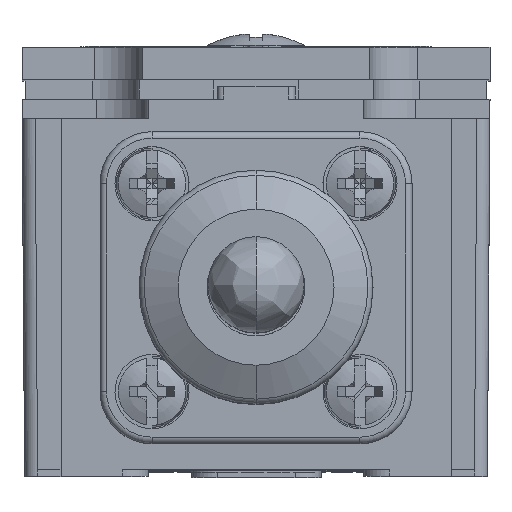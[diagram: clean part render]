
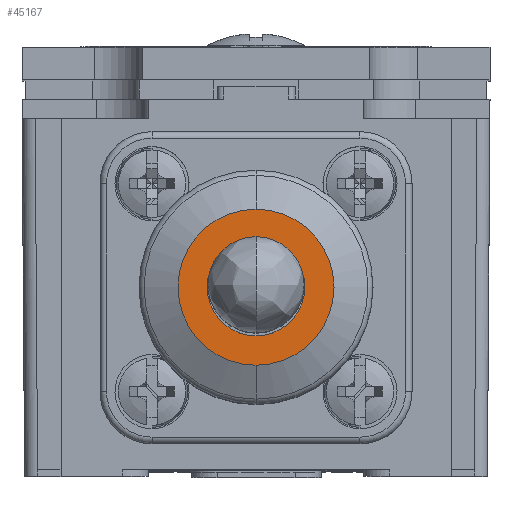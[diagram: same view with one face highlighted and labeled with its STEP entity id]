
A CAD part, top view. The second image highlights one B-rep face of the part: STEP entity #45167.
In plain terms, the highlighted planar face has unit normal (0, 0, 1).
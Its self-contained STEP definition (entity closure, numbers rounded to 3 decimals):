
#44654=CARTESIAN_POINT('',(0.,14.5,24.3));
#44655=DIRECTION('',(0.,0.,1.));
#44656=DIRECTION('',(0.,1.,0.));
#44657=AXIS2_PLACEMENT_3D('',#44654,#44655,#44656);
#44662=CARTESIAN_POINT('',(0.,14.5,24.3));
#44663=DIRECTION('',(0.,0.,1.));
#44664=DIRECTION('',(0.,-1.,0.));
#44665=AXIS2_PLACEMENT_3D('',#44662,#44663,#44664);
#44670=CARTESIAN_POINT('',(2.1,14.5,24.3));
#44671=CARTESIAN_POINT('',(2.1,14.557,24.3));
#44672=CARTESIAN_POINT('',(2.096,14.67,24.3));
#44673=CARTESIAN_POINT('',(2.074,14.842,24.3));
#44674=CARTESIAN_POINT('',(2.039,15.012,24.3));
#44675=CARTESIAN_POINT('',(1.99,15.179,24.3));
#44676=CARTESIAN_POINT('',(1.927,15.341,24.3));
#44677=CARTESIAN_POINT('',(1.85,15.498,24.3));
#44678=CARTESIAN_POINT('',(1.762,15.647,24.3));
#44679=CARTESIAN_POINT('',(1.661,15.789,24.3));
#44680=CARTESIAN_POINT('',(1.548,15.922,24.3));
#44681=CARTESIAN_POINT('',(1.426,16.045,24.3));
#44682=CARTESIAN_POINT('',(1.293,16.158,24.3));
#44683=CARTESIAN_POINT('',(1.151,16.259,24.3));
#44684=CARTESIAN_POINT('',(1.002,16.348,24.3));
#44685=CARTESIAN_POINT('',(0.846,16.425,24.3));
#44686=CARTESIAN_POINT('',(0.684,16.488,24.3));
#44687=CARTESIAN_POINT('',(0.517,16.538,24.3));
#44688=CARTESIAN_POINT('',(0.347,16.574,24.3));
#44689=CARTESIAN_POINT('',(0.174,16.595,24.3));
#44690=CARTESIAN_POINT('',(0.,16.602,24.3));
#44691=CARTESIAN_POINT('',(-0.174,16.595,24.3));
#44692=CARTESIAN_POINT('',(-0.346,16.574,24.3));
#44693=CARTESIAN_POINT('',(-0.517,16.538,24.3));
#44694=CARTESIAN_POINT('',(-0.683,16.488,24.3));
#44695=CARTESIAN_POINT('',(-0.845,16.425,24.3));
#44696=CARTESIAN_POINT('',(-1.002,16.348,24.3));
#44697=CARTESIAN_POINT('',(-1.151,16.259,24.3));
#44698=CARTESIAN_POINT('',(-1.293,16.158,24.3));
#44699=CARTESIAN_POINT('',(-1.425,16.046,24.3));
#44700=CARTESIAN_POINT('',(-1.548,15.922,24.3));
#44701=CARTESIAN_POINT('',(-1.66,15.79,24.3));
#44702=CARTESIAN_POINT('',(-1.761,15.648,24.3));
#44703=CARTESIAN_POINT('',(-1.85,15.498,24.3));
#44704=CARTESIAN_POINT('',(-1.927,15.342,24.3));
#44705=CARTESIAN_POINT('',(-1.99,15.179,24.3));
#44706=CARTESIAN_POINT('',(-2.039,15.012,24.3));
#44707=CARTESIAN_POINT('',(-2.074,14.842,24.3));
#44708=CARTESIAN_POINT('',(-2.096,14.671,24.3));
#44709=CARTESIAN_POINT('',(-2.1,14.557,24.3));
#44710=CARTESIAN_POINT('',(-2.1,14.5,24.3));
#44715=CARTESIAN_POINT('',(-2.1,14.5,24.3));
#44716=CARTESIAN_POINT('',(-2.1,14.443,24.3));
#44717=CARTESIAN_POINT('',(-2.096,14.33,24.3));
#44718=CARTESIAN_POINT('',(-2.074,14.158,24.3));
#44719=CARTESIAN_POINT('',(-2.039,13.988,24.3));
#44720=CARTESIAN_POINT('',(-1.99,13.821,24.3));
#44721=CARTESIAN_POINT('',(-1.927,13.659,24.3));
#44722=CARTESIAN_POINT('',(-1.85,13.502,24.3));
#44723=CARTESIAN_POINT('',(-1.762,13.353,24.3));
#44724=CARTESIAN_POINT('',(-1.661,13.211,24.3));
#44725=CARTESIAN_POINT('',(-1.548,13.078,24.3));
#44726=CARTESIAN_POINT('',(-1.426,12.955,24.3));
#44727=CARTESIAN_POINT('',(-1.293,12.842,24.3));
#44728=CARTESIAN_POINT('',(-1.151,12.741,24.3));
#44729=CARTESIAN_POINT('',(-1.002,12.652,24.3));
#44730=CARTESIAN_POINT('',(-0.846,12.575,24.3));
#44731=CARTESIAN_POINT('',(-0.684,12.512,24.3));
#44732=CARTESIAN_POINT('',(-0.517,12.462,24.3));
#44733=CARTESIAN_POINT('',(-0.347,12.426,24.3));
#44734=CARTESIAN_POINT('',(-0.174,12.405,24.3));
#44735=CARTESIAN_POINT('',(0.,12.398,24.3));
#44736=CARTESIAN_POINT('',(0.174,12.405,24.3));
#44737=CARTESIAN_POINT('',(0.346,12.426,24.3));
#44738=CARTESIAN_POINT('',(0.517,12.462,24.3));
#44739=CARTESIAN_POINT('',(0.683,12.512,24.3));
#44740=CARTESIAN_POINT('',(0.845,12.575,24.3));
#44741=CARTESIAN_POINT('',(1.002,12.652,24.3));
#44742=CARTESIAN_POINT('',(1.151,12.741,24.3));
#44743=CARTESIAN_POINT('',(1.293,12.842,24.3));
#44744=CARTESIAN_POINT('',(1.425,12.954,24.3));
#44745=CARTESIAN_POINT('',(1.548,13.078,24.3));
#44746=CARTESIAN_POINT('',(1.66,13.21,24.3));
#44747=CARTESIAN_POINT('',(1.761,13.352,24.3));
#44748=CARTESIAN_POINT('',(1.85,13.502,24.3));
#44749=CARTESIAN_POINT('',(1.927,13.658,24.3));
#44750=CARTESIAN_POINT('',(1.99,13.821,24.3));
#44751=CARTESIAN_POINT('',(2.039,13.988,24.3));
#44752=CARTESIAN_POINT('',(2.074,14.158,24.3));
#44753=CARTESIAN_POINT('',(2.096,14.329,24.3));
#44754=CARTESIAN_POINT('',(2.1,14.443,24.3));
#44755=CARTESIAN_POINT('',(2.1,14.5,24.3));
#45100=VERTEX_POINT('',#44710);
#45101=VERTEX_POINT('',#44670);
#45106=CARTESIAN_POINT('',(0.,20.5,24.3));
#45107=CARTESIAN_POINT('',(0.,8.5,24.3));
#45108=VERTEX_POINT('',#45106);
#45109=VERTEX_POINT('',#45107);
#45150=CARTESIAN_POINT('',(0.,14.5,24.3));
#45151=DIRECTION('',(0.,0.,1.));
#45152=DIRECTION('',(0.,1.,0.));
#45153=AXIS2_PLACEMENT_3D('',#45150,#45151,#45152);
#45154=PLANE('',#45153);
#45156=ORIENTED_EDGE('',*,*,#45155,.F.);
#45158=ORIENTED_EDGE('',*,*,#45157,.F.);
#45159=EDGE_LOOP('',(#45156,#45158));
#45160=FACE_OUTER_BOUND('',#45159,.F.);
#45162=ORIENTED_EDGE('',*,*,#45161,.T.);
#45164=ORIENTED_EDGE('',*,*,#45163,.T.);
#45165=EDGE_LOOP('',(#45162,#45164));
#45166=FACE_BOUND('',#45165,.F.);
#44658=CIRCLE('',#44657,6.);
#44666=CIRCLE('',#44665,6.);
#44711=B_SPLINE_CURVE_WITH_KNOTS('',3,(#44670,#44671,#44672,#44673,#44674,
#44675,#44676,#44677,#44678,#44679,#44680,#44681,#44682,#44683,#44684,#44685,
#44686,#44687,#44688,#44689,#44690,#44691,#44692,#44693,#44694,#44695,#44696,
#44697,#44698,#44699,#44700,#44701,#44702,#44703,#44704,#44705,#44706,#44707,
#44708,#44709,#44710),.UNSPECIFIED.,.F.,.F.,(4,1,1,1,1,1,1,1,1,1,1,1,1,1,1,1,1,
1,1,1,1,1,1,1,1,1,1,1,1,1,1,1,1,1,1,1,1,1,4),(0.,0.026,
0.053,0.079,0.105,0.132,
0.158,0.184,0.211,0.237,
0.263,0.289,0.316,0.342,
0.368,0.395,0.421,0.447,
0.474,0.5,0.526,0.553,0.579,
0.605,0.632,0.658,0.684,
0.711,0.737,0.763,0.789,
0.816,0.842,0.868,0.895,
0.921,0.947,0.974,1.),.UNSPECIFIED.);
#44756=B_SPLINE_CURVE_WITH_KNOTS('',3,(#44715,#44716,#44717,#44718,#44719,
#44720,#44721,#44722,#44723,#44724,#44725,#44726,#44727,#44728,#44729,#44730,
#44731,#44732,#44733,#44734,#44735,#44736,#44737,#44738,#44739,#44740,#44741,
#44742,#44743,#44744,#44745,#44746,#44747,#44748,#44749,#44750,#44751,#44752,
#44753,#44754,#44755),.UNSPECIFIED.,.F.,.F.,(4,1,1,1,1,1,1,1,1,1,1,1,1,1,1,1,1,
1,1,1,1,1,1,1,1,1,1,1,1,1,1,1,1,1,1,1,1,1,4),(0.,0.026,
0.053,0.079,0.105,0.132,
0.158,0.184,0.211,0.237,
0.263,0.289,0.316,0.342,
0.368,0.395,0.421,0.447,
0.474,0.5,0.526,0.553,0.579,
0.605,0.632,0.658,0.684,
0.711,0.737,0.763,0.789,
0.816,0.842,0.868,0.895,
0.921,0.947,0.974,1.),.UNSPECIFIED.);
#45155=EDGE_CURVE('',#45108,#45109,#44658,.T.);
#45157=EDGE_CURVE('',#45109,#45108,#44666,.T.);
#45161=EDGE_CURVE('',#45101,#45100,#44711,.T.);
#45163=EDGE_CURVE('',#45100,#45101,#44756,.T.);
#45167=ADVANCED_FACE('',(#45160,#45166),#45154,.T.);
